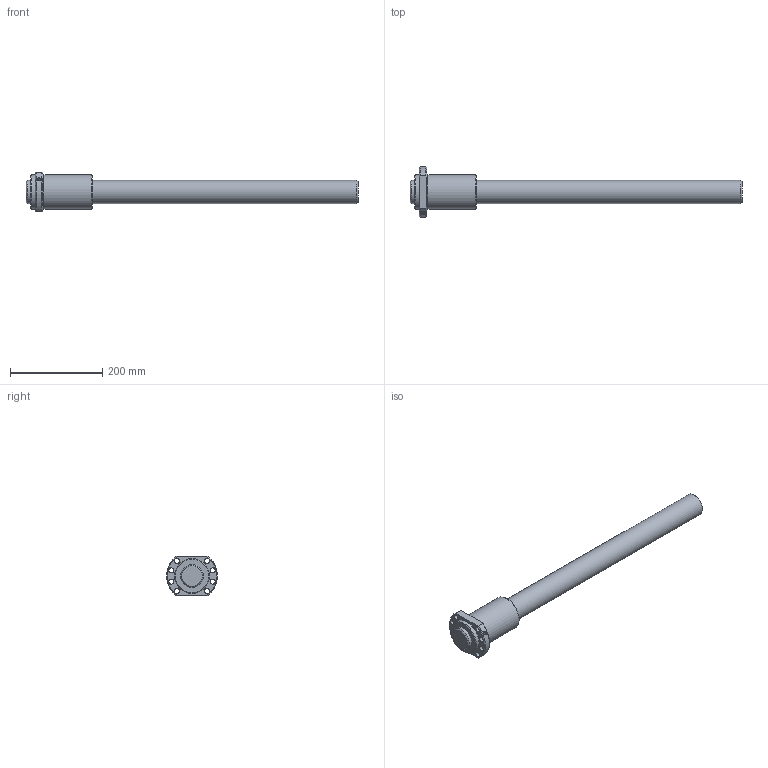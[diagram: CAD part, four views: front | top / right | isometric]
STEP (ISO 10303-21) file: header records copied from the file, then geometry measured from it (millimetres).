
FILE_DESCRIPTION(/* description */ ('STEP AP214'),/* implementation_level */ '2;1');
FILE_NAME(/* name */ 'EBB5020-3RRG0+720L C0(566G000)_rev',/* time_stamp */ '2023-08-03T13:16:24+02:00',/* author */ ('License CC BY-ND 4.0'),/* organization */ ('CADENAS'),/* preprocessor_version */ 'ST-DEVELOPER v19.3',/* originating_system */ 'PARTsolutions',/* authorisation */ ' ');
FILE_SCHEMA (('AUTOMOTIVE_DESIGN {1 0 10303 214 3 1 1}'));
Length unit declared in the file: millimetre
Products named in the file (3): EBB5020-3RRG0+720L C0(566G000)_rev; EBB 5020-3RR Nut1; EBB 5020-35660 Shaft1
Assembly tree (2 placements, depth 2):
  EBB5020-3RRG0+720L C0(566G000)_rev
    EBB 5020-3RR Nut1
    EBB 5020-35660 Shaft1
Bounding box: 720 x 109.65 x 85 mm (x, y, z)
Volume: 1788159.6 mm3; surface area: 187090.1 mm2
Topology: 2 solids, 2 shells, 34 faces, 77 edges, 50 vertices
Faces by surface type: cylinder 16, cone 9, plane 9
Full cylindrical faces by diameter (mm): 6.647 x1, 11 x8, 50 x2, 70.5 x1, 75 x2
Entity records: 1003 total; most frequent: CARTESIAN_POINT 187, DIRECTION 160, ORIENTED_EDGE 114, EDGE_LOOP 76, FACE_BOUND 76, AXIS2_PLACEMENT_3D 76, EDGE_CURVE 57, VERTEX_POINT 49
